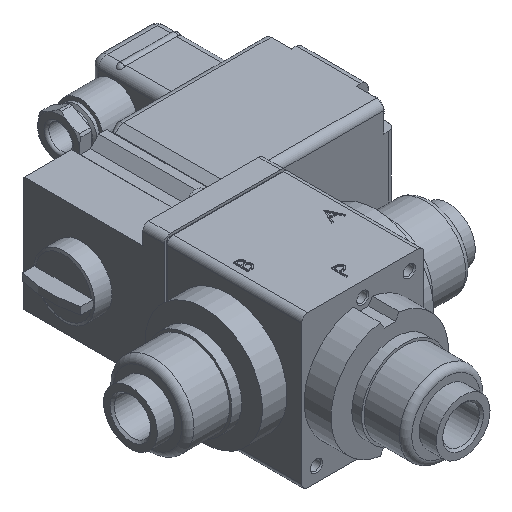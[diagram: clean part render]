
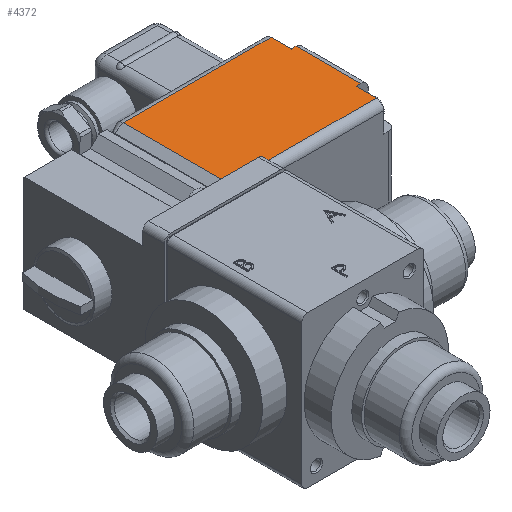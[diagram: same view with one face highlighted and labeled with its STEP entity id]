
A CAD part, isometric view. The second image highlights one B-rep face of the part: STEP entity #4372.
In plain terms, the highlighted planar face has unit normal (0, 0, 1).
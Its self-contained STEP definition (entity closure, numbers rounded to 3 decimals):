
#65=PLANE('',#4724);
#242=LINE('',#6541,#610);
#249=LINE('',#6572,#617);
#310=LINE('',#6923,#678);
#311=LINE('',#6926,#679);
#312=LINE('',#6928,#680);
#313=LINE('',#6929,#681);
#314=LINE('',#6930,#682);
#315=LINE('',#6932,#683);
#610=VECTOR('',#5156,1000.);
#617=VECTOR('',#5183,1000.);
#678=VECTOR('',#5386,1000.);
#679=VECTOR('',#5387,1000.);
#680=VECTOR('',#5388,1000.);
#681=VECTOR('',#5389,1000.);
#682=VECTOR('',#5390,1000.);
#683=VECTOR('',#5391,1000.);
#1150=ORIENTED_EDGE('',*,*,#2351,.F.);
#1151=ORIENTED_EDGE('',*,*,#2352,.T.);
#1152=ORIENTED_EDGE('',*,*,#2353,.F.);
#1153=ORIENTED_EDGE('',*,*,#2223,.T.);
#1154=ORIENTED_EDGE('',*,*,#2354,.T.);
#1155=ORIENTED_EDGE('',*,*,#2209,.F.);
#1156=ORIENTED_EDGE('',*,*,#2355,.F.);
#1157=ORIENTED_EDGE('',*,*,#2356,.T.);
#2209=EDGE_CURVE('',#2823,#2825,#242,.T.);
#2223=EDGE_CURVE('',#2836,#2838,#249,.T.);
#2351=EDGE_CURVE('',#2937,#2938,#310,.T.);
#2352=EDGE_CURVE('',#2937,#2939,#311,.T.);
#2353=EDGE_CURVE('',#2836,#2939,#312,.T.);
#2354=EDGE_CURVE('',#2838,#2825,#313,.T.);
#2355=EDGE_CURVE('',#2940,#2823,#314,.T.);
#2356=EDGE_CURVE('',#2940,#2938,#315,.T.);
#2823=VERTEX_POINT('',#6539);
#2825=VERTEX_POINT('',#6542);
#2836=VERTEX_POINT('',#6567);
#2838=VERTEX_POINT('',#6571);
#2937=VERTEX_POINT('',#6924);
#2938=VERTEX_POINT('',#6925);
#2939=VERTEX_POINT('',#6927);
#2940=VERTEX_POINT('',#6931);
#3504=EDGE_LOOP('',(#1150,#1151,#1152,#1153,#1154,#1155,#1156,#1157));
#3892=FACE_BOUND('',#3504,.T.);
#4372=ADVANCED_FACE('',(#3892),#65,.F.);
#4724=AXIS2_PLACEMENT_3D('',#6922,#5384,#5385);
#5156=DIRECTION('',(-1.,0.,0.));
#5183=DIRECTION('',(-1.,0.,0.));
#5384=DIRECTION('',(0.,0.,-1.));
#5385=DIRECTION('',(-1.,0.,0.));
#5386=DIRECTION('',(0.,-1.,0.));
#5387=DIRECTION('',(-1.,0.,0.));
#5388=DIRECTION('',(0.,-1.,0.));
#5389=DIRECTION('',(0.,-1.,0.));
#5390=DIRECTION('',(0.,-1.,0.));
#5391=DIRECTION('',(1.,0.,0.));
#6539=CARTESIAN_POINT('',(74.,13.5,24.5));
#6541=CARTESIAN_POINT('',(79.,13.5,24.5));
#6542=CARTESIAN_POINT('',(13.5,13.5,24.5));
#6567=CARTESIAN_POINT('',(74.,56.5,24.5));
#6571=CARTESIAN_POINT('',(13.5,56.5,24.5));
#6572=CARTESIAN_POINT('',(79.,56.5,24.5));
#6922=CARTESIAN_POINT('',(79.,56.5,24.5));
#6923=CARTESIAN_POINT('',(76.,65.,24.5));
#6924=CARTESIAN_POINT('',(76.,48.25,24.5));
#6925=CARTESIAN_POINT('',(76.,21.75,24.5));
#6926=CARTESIAN_POINT('',(79.,48.25,24.5));
#6927=CARTESIAN_POINT('',(74.,48.25,24.5));
#6928=CARTESIAN_POINT('',(74.,56.5,24.5));
#6929=CARTESIAN_POINT('',(13.5,56.5,24.5));
#6930=CARTESIAN_POINT('',(74.,56.5,24.5));
#6931=CARTESIAN_POINT('',(74.,21.75,24.5));
#6932=CARTESIAN_POINT('',(79.,21.75,24.5));
